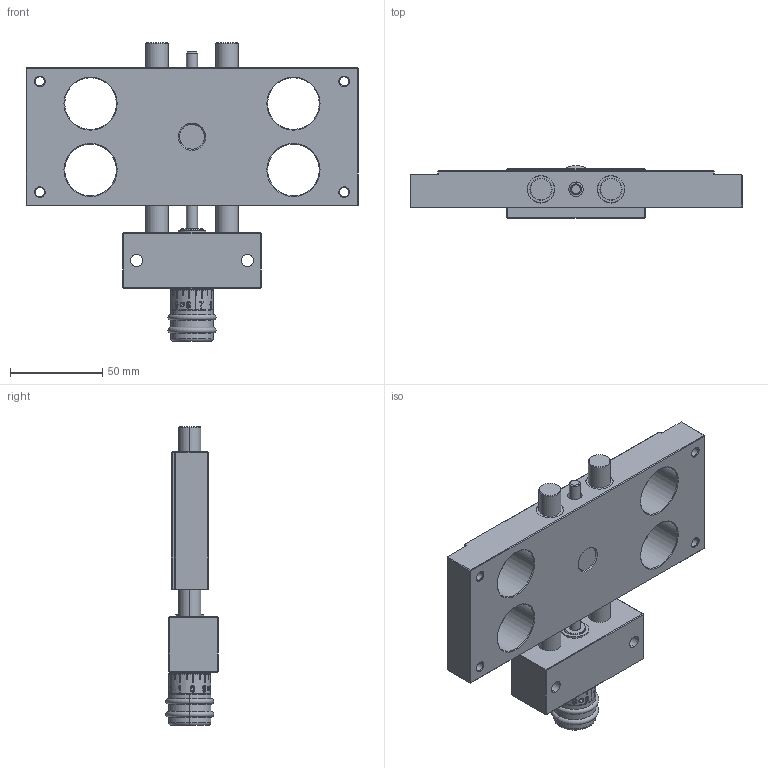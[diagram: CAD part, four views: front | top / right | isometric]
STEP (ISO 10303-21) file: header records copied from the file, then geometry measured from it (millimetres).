
FILE_DESCRIPTION (( 'STEP AP203' ), '1' );
FILE_NAME ('KT2512-L-SK-Kreuztisch.STEP', '2016-01-15T16:59:40', ( '' ), ( '' ), 'SwSTEP 2.0', 'SolidWorks 2014', '' );
FILE_SCHEMA (( 'CONFIG_CONTROL_DESIGN' ));
Length unit declared in the file: millimetre
Products named in the file (3): PT2512-000-01-Festteil-SK; KT12-000-03-L-Schlitten-komplett; KT2512-L-SK-Kreuztisch
Assembly tree (2 placements, depth 2):
  KT2512-L-SK-Kreuztisch
    PT2512-000-01-Festteil-SK
    KT12-000-03-L-Schlitten-komplett
Bounding box: 180 x 28.52 x 161.89 mm (x, y, z)
Volume: 287880.4 mm3; surface area: 75028 mm2
Topology: 2 solids, 6 shells, 613 faces, 1483 edges, 933 vertices
Faces by surface type: plane 239, cylinder 144, cone 106, bspline 102, torus 20, sphere 2
Entity records: 32588 total; most frequent: CARTESIAN_POINT 18616, ORIENTED_EDGE 2958, DIRECTION 2595, EDGE_CURVE 1479, AXIS2_PLACEMENT_3D 999, VERTEX_POINT 933, EDGE_LOOP 702, ADVANCED_FACE 613
